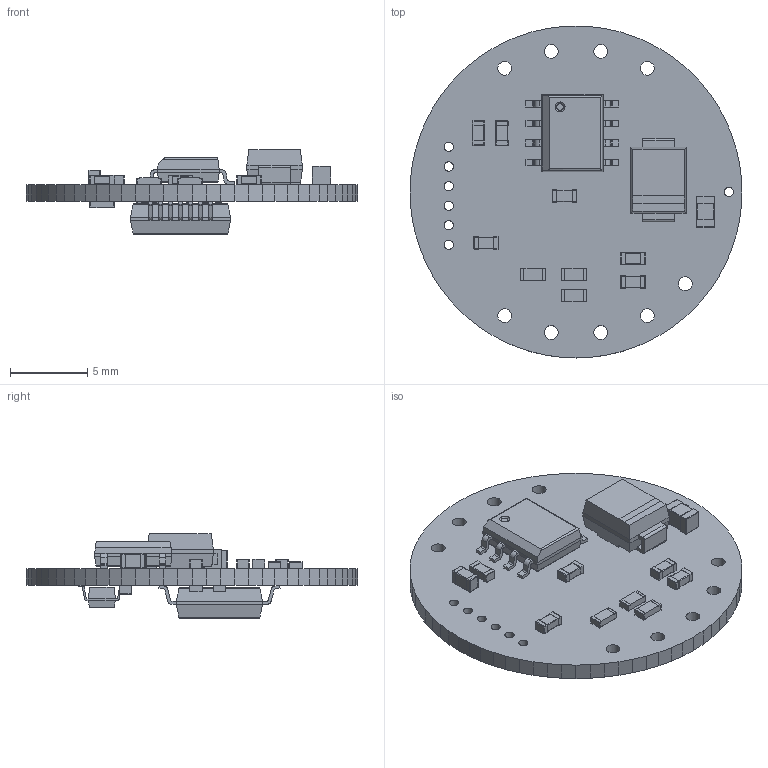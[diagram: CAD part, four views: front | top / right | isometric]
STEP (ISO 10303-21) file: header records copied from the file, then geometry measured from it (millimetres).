
FILE_DESCRIPTION(('Open CASCADE Model'),'2;1');
FILE_NAME('Open CASCADE Shape Model','2011-07-04T14:22:07',('Author'),( 'Open CASCADE'),'Open CASCADE STEP processor 6.2','Open CASCADE 6.2' ,'Unknown');
FILE_SCHEMA(('AUTOMOTIVE_DESIGN { 1 0 10303 214 1 1 1 1 }'));
Length unit declared in the file: millimetre
Products named in the file (33): PCB; Board; R5; User_Library-RES_0603L; User_Library-RES_0603L_RES_0603_Lead_1; User_Library-RES_0603L_RES_0603_Body_1; R4; C7; User_Library-cap_0603_lowprofile; C6; VD1; SW3dPS-DO-214AA_SMB; R3; R2; R1; L1; User_Library-Chip_Inductor; D3; User_Library-SOT-23-6-1; User_Library-SOT-23-6-1_pin_SOT_sot-23-6_1; User_Library-SOT-23-6-1_body_sot23-6_1; D1; User_Library-IPC_SO; C5; User_Library-cap_0805-1; C4; C3; C2; C1; D2; User_Library-SOIC-8; User_Library-SOIC-8_SOIC-8_Body_1; User_Library-SOIC-8_SOIC-8_Pins_1
Assembly tree (47 placements, depth 4):
  PCB
    Board
    R5
      User_Library-RES_0603L
        User_Library-RES_0603L_RES_0603_Lead_1  x2
        User_Library-RES_0603L_RES_0603_Body_1
    R4
      User_Library-RES_0603L
        User_Library-RES_0603L_RES_0603_Lead_1  x2
        User_Library-RES_0603L_RES_0603_Body_1
    C7
      User_Library-cap_0603_lowprofile
    C6
      User_Library-cap_0603_lowprofile
    VD1
      SW3dPS-DO-214AA_SMB
    R3
      User_Library-RES_0603L
        User_Library-RES_0603L_RES_0603_Lead_1  x2
        User_Library-RES_0603L_RES_0603_Body_1
    R2
      User_Library-RES_0603L
        User_Library-RES_0603L_RES_0603_Lead_1  x2
        User_Library-RES_0603L_RES_0603_Body_1
    R1
      User_Library-RES_0603L
        User_Library-RES_0603L_RES_0603_Lead_1  x2
        User_Library-RES_0603L_RES_0603_Body_1
    L1
      User_Library-Chip_Inductor
    D3
      User_Library-SOT-23-6-1
        User_Library-SOT-23-6-1_pin_SOT_sot-23-6_1  x6
        User_Library-SOT-23-6-1_body_sot23-6_1
    D1
      User_Library-IPC_SO
    C5
      User_Library-cap_0805-1
    C4
      User_Library-cap_0603_lowprofile
    C3
      User_Library-cap_0603_lowprofile
    C2
      User_Library-cap_0603_lowprofile
    C1
      User_Library-cap_0603_lowprofile
    D2
      User_Library-SOIC-8
        User_Library-SOIC-8_SOIC-8_Body_1
        User_Library-SOIC-8_SOIC-8_Pins_1
Bounding box: 21.52 x 21.52 x 5.49 mm (x, y, z)
Volume: 536.5 mm3; surface area: 1255.6 mm2
Topology: 35 solids, 35 shells, 1074 faces, 2722 edges, 1665 vertices
Faces by surface type: plane 697, cylinder 309, sphere 64, bspline 4
Full cylindrical faces by diameter (mm): 0.6 x7, 0.9 x9
Entity records: 48092 total; most frequent: CARTESIAN_POINT 11199, DIRECTION 5837, LINE 3628, VECTOR 3628, ORIENTED_EDGE 3368, PCURVE 3368, DEFINITIONAL_REPRESENTATION 3368, EDGE_CURVE 1684
